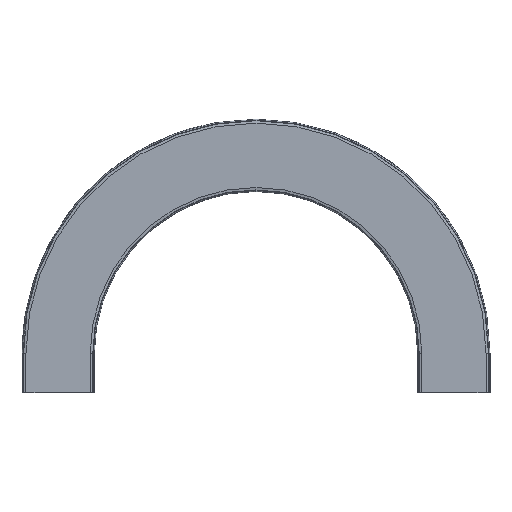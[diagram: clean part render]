
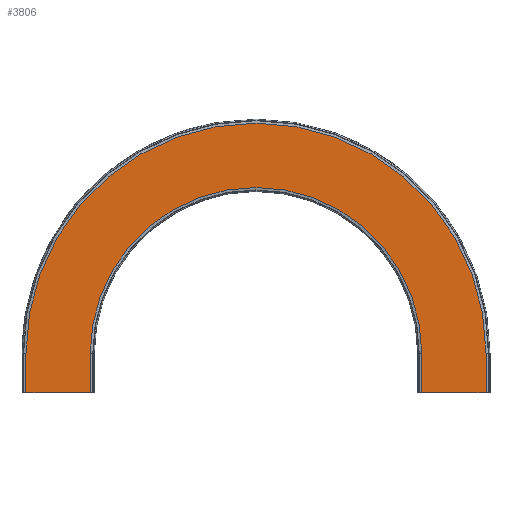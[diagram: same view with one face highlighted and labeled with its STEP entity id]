
A CAD part, front view. The second image highlights one B-rep face of the part: STEP entity #3806.
In plain terms, the highlighted planar face has unit normal (0, -1, 0).
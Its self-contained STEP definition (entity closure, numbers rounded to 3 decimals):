
#181=CIRCLE('',#4036,335.);
#182=CIRCLE('',#4038,465.);
#356=FACE_OUTER_BOUND('',#559,.T.);
#559=EDGE_LOOP('',(#2545,#2546,#2547,#2548,#2549,#2550,#2551,#2552));
#781=LINE('',#5298,#1171);
#785=LINE('',#5305,#1175);
#796=LINE('',#5338,#1186);
#797=LINE('',#5340,#1187);
#798=LINE('',#5341,#1188);
#799=LINE('',#5342,#1189);
#1171=VECTOR('',#4324,10.);
#1175=VECTOR('',#4330,10.);
#1186=VECTOR('',#4361,10.);
#1187=VECTOR('',#4362,10.);
#1188=VECTOR('',#4363,10.);
#1189=VECTOR('',#4364,10.);
#1561=VERTEX_POINT('',#5295);
#1562=VERTEX_POINT('',#5297);
#1564=VERTEX_POINT('',#5303);
#1573=VERTEX_POINT('',#5329);
#1574=VERTEX_POINT('',#5331);
#1575=VERTEX_POINT('',#5335);
#1576=VERTEX_POINT('',#5337);
#1577=VERTEX_POINT('',#5339);
#1941=EDGE_CURVE('',#1562,#1561,#781,.T.);
#1945=EDGE_CURVE('',#1564,#1561,#785,.T.);
#1958=EDGE_CURVE('',#1574,#1573,#181,.T.);
#1960=EDGE_CURVE('',#1575,#1564,#182,.T.);
#1961=EDGE_CURVE('',#1576,#1575,#796,.T.);
#1962=EDGE_CURVE('',#1576,#1577,#797,.T.);
#1963=EDGE_CURVE('',#1577,#1574,#798,.T.);
#1964=EDGE_CURVE('',#1573,#1562,#799,.T.);
#2545=ORIENTED_EDGE('',*,*,#1941,.T.);
#2546=ORIENTED_EDGE('',*,*,#1945,.F.);
#2547=ORIENTED_EDGE('',*,*,#1960,.F.);
#2548=ORIENTED_EDGE('',*,*,#1961,.F.);
#2549=ORIENTED_EDGE('',*,*,#1962,.T.);
#2550=ORIENTED_EDGE('',*,*,#1963,.T.);
#2551=ORIENTED_EDGE('',*,*,#1958,.T.);
#2552=ORIENTED_EDGE('',*,*,#1964,.T.);
#3675=PLANE('',#4037);
#3806=ADVANCED_FACE('',(#356),#3675,.T.);
#4036=AXIS2_PLACEMENT_3D('',#5332,#4354,#4355);
#4037=AXIS2_PLACEMENT_3D('',#5334,#4357,#4358);
#4038=AXIS2_PLACEMENT_3D('',#5336,#4359,#4360);
#4324=DIRECTION('',(1.,0.,0.));
#4330=DIRECTION('',(0.,0.,-1.));
#4354=DIRECTION('center_axis',(0.,1.,0.));
#4355=DIRECTION('ref_axis',(-1.,0.,0.));
#4357=DIRECTION('center_axis',(0.,-1.,0.));
#4358=DIRECTION('ref_axis',(0.,0.,1.));
#4359=DIRECTION('center_axis',(0.,1.,0.));
#4360=DIRECTION('ref_axis',(-1.,0.,0.));
#4361=DIRECTION('',(0.,0.,1.));
#4362=DIRECTION('',(1.,0.,0.));
#4363=DIRECTION('',(0.,0.,1.));
#4364=DIRECTION('',(0.,0.,-1.));
#5295=CARTESIAN_POINT('',(904.001,-72.,0.));
#5297=CARTESIAN_POINT('',(774.001,-72.,0.));
#5298=CARTESIAN_POINT('',(808.001,-72.,0.));
#5303=CARTESIAN_POINT('',(904.001,-72.,80.));
#5305=CARTESIAN_POINT('',(904.001,-72.,1416.637));
#5329=CARTESIAN_POINT('',(774.001,-72.,80.));
#5331=CARTESIAN_POINT('',(104.001,-72.,80.));
#5332=CARTESIAN_POINT('Origin',(439.001,-72.,80.));
#5334=CARTESIAN_POINT('Origin',(774.001,-72.,1416.637));
#5335=CARTESIAN_POINT('',(-25.999,-72.,80.));
#5336=CARTESIAN_POINT('Origin',(439.001,-72.,80.));
#5337=CARTESIAN_POINT('',(-25.999,-72.,0.));
#5338=CARTESIAN_POINT('',(-25.999,-72.,0.));
#5339=CARTESIAN_POINT('',(104.001,-72.,0.));
#5340=CARTESIAN_POINT('',(-25.999,-72.,0.));
#5341=CARTESIAN_POINT('',(104.001,-72.,0.));
#5342=CARTESIAN_POINT('',(774.001,-72.,1416.637));
